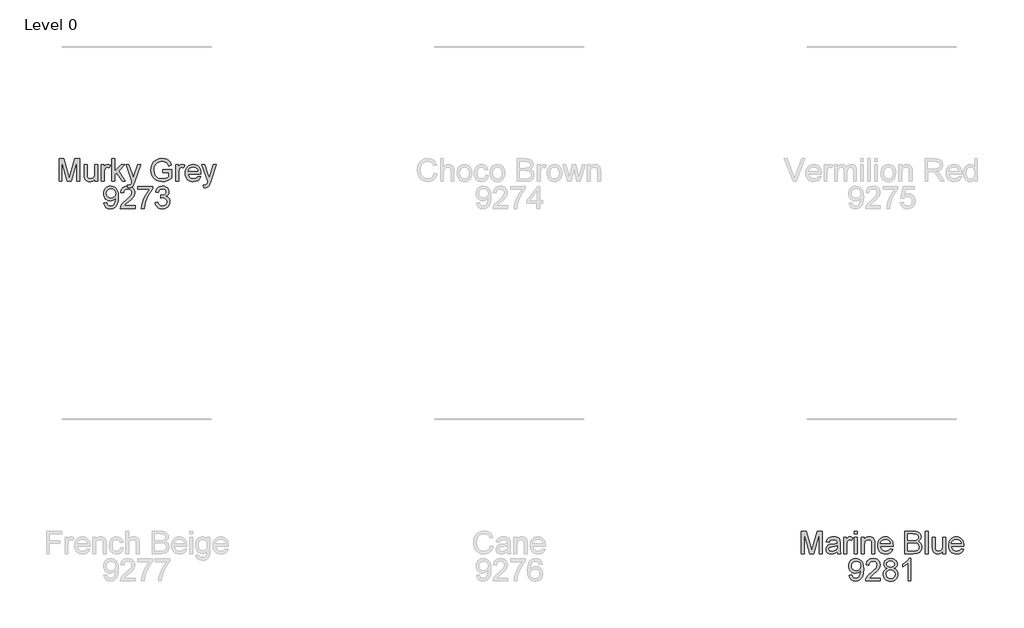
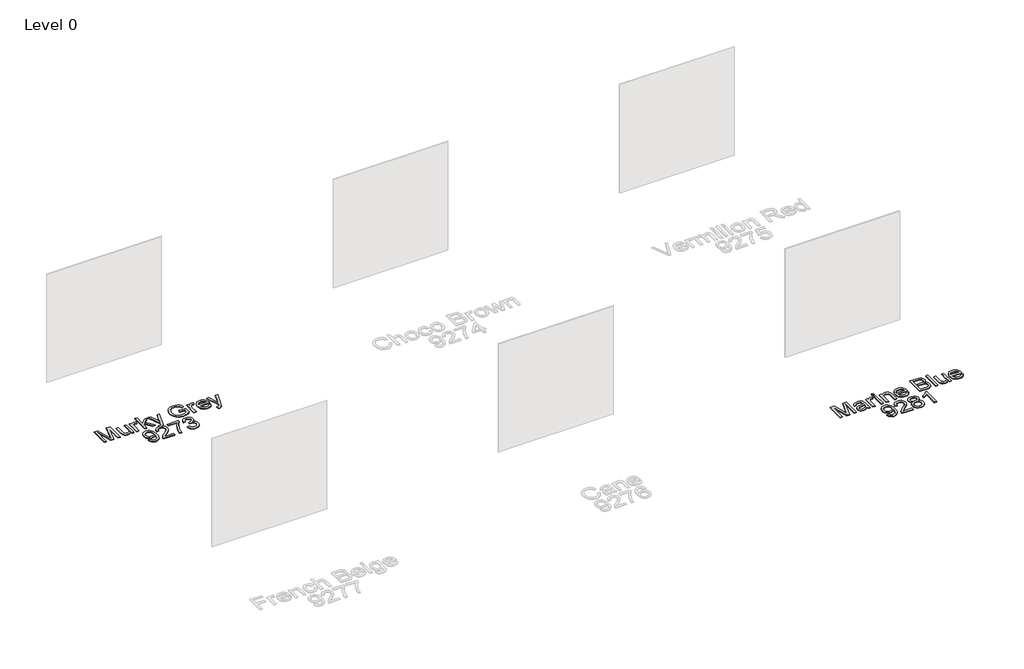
# One storey, part 4 of 6: 2 proxies.
"""IFC4 building model written with IfcOpenShell, lengths in millimetres."""

from ifc_helpers import new_model, si_unit, origin, origin_with_axes, place, context, project, spatial, polyline, outline, extrude, element, save

model = new_model("IFC4")

# Units and contexts
model_context = context("Model", 3, world=origin())
ifc_project = project(units=[si_unit("LENGTHUNIT", "METRE", prefix="MILLI")], contexts=[model_context])

# Site, building, storey
site = spatial("IfcSite", under=ifc_project)
building = spatial("IfcBuilding", under=site)
storey = spatial("IfcBuildingStorey", under=building, Name="Level 0", Elevation=0.0)

# Proxies
placement = place(None, origin())
element("IfcBuildingElementProxy", 1, Name="300mm Arial", ObjectType="300mm Arial", at=placement, inside=storey, context=model_context, shape_type="SweptSolid", body=[
    extrude(outline(polyline([(9471.0062394, -12002.860494), (9471.0062394, -11701.4915635), (9535.827047, -11701.4915635), (9597.4840694, -11913.9066275), (9609.9184808, -11958.2731962), (9623.3829618, -11910.2278076), (9684.0099146, -11701.4915635), (9748.8307222, -11701.4915635), (9748.8307222, -12002.860494), (9711.1596059, -12002.860494), (9711.1596059, -11739.1626798), (9635.4494913, -12002.860494), (9584.3874703, -12002.860494), (9508.6773557, -11739.1626798), (9508.6773557, -12002.860494), (9471.0062394, -12002.860494)])), origin_with_axes(), (0.0, 0.0, 1.0), 10.0),
    extrude(outline(polyline([(9951.3129723, -11974.6071568), (9933.3143457, -11990.0398064), (9914.7822902, -12000.1381672), (9895.2937415, -12005.7115794), (9874.4256353, -12007.5693835), (9842.9441336, -12003.0996173), (9819.7215827, -11989.6903186), (9805.401776, -11969.3280501), (9800.6285071, -11943.9993748), (9802.4311289, -11928.3827841), (9807.8389942, -11914.2009331), (9816.1807185, -11902.0608273), (9826.784917, -11892.5694718), (9853.162056, -11880.2086368), (9885.7564008, -11874.5432541), (9924.2736457, -11868.5835657), (9951.0922431, -11861.5938078), (9951.3129723, -11853.2060983), (9948.7194043, -11836.3938912), (9940.9387001, -11825.3942195), (9923.5378817, -11817.2272392), (9899.2944582, -11814.5049125), (9876.8536565, -11816.3167313), (9861.1818835, -11821.7521878), (9850.4949116, -11831.8045633), (9843.008513, -11847.4671392), (9805.3373966, -11842.7582497), (9811.8764991, -11822.156858), (9821.634569, -11805.9700502), (9835.5221144, -11793.590821), (9854.449643, -11784.4121652), (9877.5986175, -11778.7283884), (9904.1505006, -11776.8337961), (9929.6171317, -11778.5076592), (9949.8046562, -11783.5292485), (9965.0257737, -11791.0800264), (9975.593184, -11800.3414556), (9982.601336, -11811.7917827), (9987.1446787, -11825.9092543), (9988.9840886, -11858.8714811), (9988.9840886, -11905.7396473), (9990.897075, -11971.1858542), (9998.4018677, -12002.860494), (9960.7307514, -12002.860494), (9951.3129723, -11974.6071568)]), holes=[polyline([(9951.3129723, -11899.2649241), (9890.5388667, -11910.8164188), (9858.128463, -11916.9232599), (9843.4499713, -11926.8560738), (9838.2996234, -11941.3506244), (9841.1047236, -11952.5526311), (9849.5200243, -11961.7312869), (9863.3615843, -11967.8565221), (9882.4454628, -11969.8982672), (9902.6789726, -11967.64499), (9920.5580375, -11960.8851583), (9935.0525881, -11950.9247533), (9945.1325548, -11939.069756), (9949.6023211, -11926.8560738), (9951.0922431, -11909.933502), (9951.3129723, -11899.2649241)])]), origin_with_axes(), (0.0, 0.0, 1.0), 10.0),
    extrude(outline(polyline([(10040.7818736, -12002.860494), (10040.7818736, -11781.5426857), (10073.7441003, -11781.5426857), (10073.7441003, -11814.2841833), (10085.9209944, -11795.3014723), (10097.1413952, -11784.1178596), (10108.3985843, -11778.654812), (10120.6858429, -11776.8337961), (10139.4478247, -11779.7400639), (10158.504112, -11788.4588672), (10145.9225478, -11822.2304343), (10132.678796, -11816.4362929), (10119.4350441, -11814.5049125), (10108.1870521, -11816.3627165), (10098.1346766, -11821.9361288), (10090.0136816, -11830.8020848), (10084.559831, -11842.5375205), (10079.9797001, -11863.5803706), (10078.4529899, -11886.5362071), (10078.4529899, -12002.860494), (10040.7818736, -12002.860494)])), origin_with_axes(), (0.0, 0.0, 1.0), 10.0),
    extrude(outline(polyline([(10182.0485597, -11739.1626798), (10182.0485597, -11701.4915635), (10219.719676, -11701.4915635), (10219.719676, -11739.1626798), (10182.0485597, -11739.1626798)])), origin_with_axes(), (0.0, 0.0, 1.0), 10.0),
    extrude(outline(polyline([(10182.0485597, -12002.860494), (10182.0485597, -11781.5426857), (10219.719676, -11781.5426857), (10219.719676, -12002.860494), (10182.0485597, -12002.860494)])), origin_with_axes(), (0.0, 0.0, 1.0), 10.0),
    extrude(outline(polyline([(10276.2263505, -12002.860494), (10276.2263505, -11781.5426857), (10313.8974668, -11781.5426857), (10313.8974668, -11812.4447733), (10326.9848688, -11796.8649708), (10342.702627, -11785.7365404), (10361.0507415, -11779.0594822), (10382.0292123, -11776.8337961), (10400.598056, -11778.6272209), (10417.6034012, -11784.0074951), (10431.7852521, -11792.303234), (10441.8836129, -11802.8430532), (10453.1775902, -11830.5445674), (10455.1641529, -11866.964885), (10455.1641529, -12002.860494), (10417.4930366, -12002.860494), (10417.4930366, -11872.0416565), (10413.1520291, -11838.7115477), (10407.1463555, -11828.7879309), (10397.8113499, -11821.0900002), (10385.845988, -11816.1511844), (10371.9492456, -11814.5049125), (10349.885523, -11818.2021265), (10331.077556, -11829.2937687), (10323.5612669, -11838.3482643), (10318.1924891, -11850.7228949), (10313.8974668, -11885.4325611), (10313.8974668, -12002.860494), (10276.2263505, -12002.860494)])), origin_with_axes(), (0.0, 0.0, 1.0), 10.0),
    extrude(outline(polyline([(10661.9138342, -11936.9360404), (10698.8491865, -11941.64493), (10685.5410554, -11969.4752029), (10664.3050672, -11990.2789297), (10635.6194686, -12003.2467701), (10599.9625062, -12007.5693835), (10576.588204, -12005.7046817), (10555.7614845, -12000.1105761), (10537.4823479, -11990.7870668), (10521.7507941, -11977.7341537), (10509.1002519, -11961.3151204), (10500.0641504, -11941.8932503), (10494.6424895, -11919.4685435), (10492.8352692, -11894.0409998), (10494.6608836, -11867.7512327), (10500.1377268, -11844.5792656), (10509.2657988, -11824.5250983), (10522.0450997, -11807.5887309), (10537.7352667, -11794.133447), (10555.5959376, -11784.5225298), (10575.6271122, -11778.7559796), (10597.8287907, -11776.8337961), (10619.3153984, -11778.751381), (10638.7464656, -11784.5041357), (10656.1219921, -11794.0920602), (10671.4419779, -11807.5151545), (10683.9476665, -11824.4147337), (10692.8803012, -11844.4321128), (10698.239882, -11867.5672917), (10700.0264089, -11893.8202706), (10699.8056797, -11903.9738137), (10530.5063855, -11903.9738137), (10537.0270939, -11932.1719686), (10552.1746351, -11952.902119), (10574.0360226, -11965.6492302), (10600.6982702, -11969.8982672), (10620.747839, -11967.9300985), (10637.6336225, -11962.0255925), (10651.355621, -11951.8168672), (10661.9138342, -11936.9360404)]), holes=[polyline([(10530.5063855, -11866.3026974), (10662.3552926, -11866.3026974), (10657.260127, -11846.4002814), (10647.2721308, -11832.1632482), (10625.3095757, -11818.9194964), (10597.6816379, -11814.5049125), (10572.2885831, -11818.0273826), (10551.2917183, -11828.5947929), (10536.6960001, -11845.0667092), (10530.5063855, -11866.3026974)])]), origin_with_axes(), (0.0, 0.0, 1.0), 10.0),
    extrude(outline(polyline([(10860.1286532, -12002.860494), (10860.1286532, -11701.4915635), (10975.1285649, -11701.4915635), (11006.7572194, -11703.7080526), (11031.4512984, -11710.3575196), (11050.378827, -11721.6055116), (11064.7078307, -11737.6175755), (11073.7301367, -11756.4531336), (11076.737572, -11776.1716086), (11074.2083833, -11794.317388), (11066.6208171, -11811.3779155), (11053.9196912, -11826.3047274), (11036.0498233, -11838.0493601), (11057.3961761, -11849.1961846), (11073.1691166, -11866.1555446), (11082.9087924, -11887.8054), (11086.1553511, -11913.0237108), (11083.938862, -11934.0389697), (11077.289395, -11953.5275184), (11067.3657782, -11970.1006023), (11055.3268399, -11982.3694669), (11040.5839689, -11991.253817), (11022.5485541, -11997.6733578), (10974.2456481, -12002.860494), (10860.1286532, -12002.860494)]), holes=[polyline([(10897.7997695, -11823.9226915), (10966.5937026, -11823.9226915), (11006.7664165, -11820.68533), (11020.8287058, -11815.1027207), (11030.9362636, -11806.7426024), (11037.0339076, -11795.7337336), (11039.0664557, -11782.2048733), (11037.1718634, -11769.071486), (11031.4880866, -11757.630356), (11022.2726426, -11748.7000206), (11009.7830489, -11743.0990172), (10961.3697783, -11739.1626798), (10897.7997695, -11739.1626798), (10897.7997695, -11823.9226915)]), polyline([(10897.7997695, -11965.1893777), (10975.0549885, -11965.1893777), (11003.0140201, -11963.7178497), (11026.6688324, -11955.5140812), (11042.3406054, -11938.7754504), (11046.9483274, -11926.9480443), (11048.4842347, -11913.3915928), (11046.681613, -11897.6462434), (11041.2737476, -11884.1081859), (11031.8283774, -11873.5223815), (11017.9132409, -11866.6337912), (10998.2039631, -11862.8538037), (10971.3761686, -11861.5938078), (10897.7997695, -11861.5938078), (10897.7997695, -11965.1893777)])]), origin_with_axes(), (0.0, 0.0, 1.0), 10.0),
    extrude(outline(polyline([(11133.2442464, -12002.860494), (11133.2442464, -11701.4915635), (11170.9153627, -11701.4915635), (11170.9153627, -12002.860494), (11133.2442464, -12002.860494)])), origin_with_axes(), (0.0, 0.0, 1.0), 10.0),
    extrude(outline(polyline([(11368.6887234, -12002.860494), (11368.6887234, -11964.8214957), (11355.0586954, -11983.5236966), (11339.1845873, -11996.8824116), (11321.0663991, -12004.8976405), (11300.7041306, -12007.5693835), (11282.3560161, -12005.6931853), (11265.2770945, -12000.0645908), (11250.9480908, -11991.6033049), (11240.84973, -11981.2290327), (11229.6293292, -11953.4907302), (11227.4220372, -11918.4683643), (11227.4220372, -11781.5426857), (11265.0931535, -11781.5426857), (11265.0931535, -11900.7364521), (11267.3740219, -11939.1433324), (11272.8646607, -11951.9548229), (11282.2732427, -11961.6944987), (11294.9743686, -11967.8473251), (11310.3426389, -11969.8982672), (11326.5938261, -11967.8013398), (11341.7965495, -11961.5105577), (11354.3321285, -11951.605335), (11362.5818822, -11938.6650858), (11367.1620131, -11920.9423707), (11368.6887234, -11896.6897502), (11368.6887234, -11781.5426857), (11406.3598397, -11781.5426857), (11406.3598397, -12002.860494), (11368.6887234, -12002.860494)])), origin_with_axes(), (0.0, 0.0, 1.0), 10.0),
    extrude(outline(polyline([(11613.1095209, -11936.9360404), (11650.0448733, -11941.64493), (11636.7367421, -11969.4752029), (11615.5007539, -11990.2789297), (11586.8151553, -12003.2467701), (11551.158193, -12007.5693835), (11527.7838907, -12005.7046817), (11506.9571712, -12000.1105761), (11488.6780346, -11990.7870668), (11472.9464808, -11977.7341537), (11460.2959387, -11961.3151204), (11451.2598372, -11941.8932503), (11445.8381763, -11919.4685435), (11444.030956, -11894.0409998), (11445.8565704, -11867.7512327), (11451.3334136, -11844.5792656), (11460.4614856, -11824.5250983), (11473.2407864, -11807.5887309), (11488.9309535, -11794.133447), (11506.7916243, -11784.5225298), (11526.822799, -11778.7559796), (11549.0244774, -11776.8337961), (11570.5110852, -11778.751381), (11589.9421523, -11784.5041357), (11607.3176788, -11794.0920602), (11622.6376646, -11807.5151545), (11635.1433532, -11824.4147337), (11644.0759879, -11844.4321128), (11649.4355687, -11867.5672917), (11651.2220956, -11893.8202706), (11651.0013664, -11903.9738137), (11481.7020723, -11903.9738137), (11488.2227806, -11932.1719686), (11503.3703218, -11952.902119), (11525.2317093, -11965.6492302), (11551.8939569, -11969.8982672), (11571.9435257, -11967.9300985), (11588.8293093, -11962.0255925), (11602.5513077, -11951.8168672), (11613.1095209, -11936.9360404)]), holes=[polyline([(11481.7020723, -11866.3026974), (11613.5509793, -11866.3026974), (11608.4558137, -11846.4002814), (11598.4678175, -11832.1632482), (11576.5052624, -11818.9194964), (11548.8773246, -11814.5049125), (11523.4842699, -11818.0273826), (11502.487405, -11828.5947929), (11487.8916868, -11845.0667092), (11481.7020723, -11866.3026974)])]), origin_with_axes(), (0.0, 0.0, 1.0), 10.0),
    extrude(outline(polyline([(10111.4152166, -12293.4427149), (10149.0863329, -12288.7338254), (10155.5242679, -12310.1169663), (10166.0089047, -12324.6758963), (10180.2827261, -12333.0360146), (10198.0882147, -12335.8227207), (10214.0634903, -12334.029296), (10228.5856321, -12328.6490218), (10240.6521615, -12320.2705094), (10249.2606002, -12309.4823699), (10261.5846471, -12276.7408723), (10267.0293006, -12233.0364913), (10266.8085714, -12225.6788514), (10253.7579576, -12241.6081418), (10236.679036, -12254.2264942), (10216.8042112, -12262.4486568), (10195.3658879, -12265.1893777), (10177.4707281, -12263.5155146), (10161.0149066, -12258.4939254), (10145.9984234, -12250.12461), (10132.4212786, -12238.4075684), (10121.1709873, -12223.9544045), (10113.135065, -12207.3767221), (10108.3135116, -12188.6745212), (10106.7063271, -12167.8478018), (10108.3916865, -12146.326705), (10113.4477647, -12127.0129003), (10121.8745616, -12109.9063875), (10133.6720773, -12095.0071667), (10148.0079788, -12082.9360387), (10164.0499331, -12074.3138045), (10181.7979401, -12069.1404639), (10201.2519999, -12067.4160171), (10229.3489872, -12071.3523544), (10254.925983, -12083.1613665), (10276.318321, -12102.254442), (10291.8613353, -12128.0429699), (10301.3250996, -12163.6907352), (10304.4796877, -12212.3615232), (10301.3342966, -12263.96617), (10291.8981235, -12303.8537754), (10276.2539416, -12333.8269609), (10254.4845246, -12355.6883485), (10227.5279714, -12369.0424649), (10196.3223811, -12373.4938371), (10164.1143124, -12368.2423216), (10138.4177551, -12352.4877751), (10120.4467196, -12327.2234791), (10111.4152166, -12293.4427149)]), holes=[polyline([(10266.8085714, -12166.964885), (10262.7434754, -12141.4338745), (10250.5481872, -12121.788976), (10231.6206586, -12109.262594), (10207.358841, -12105.0871334), (10182.1957125, -12109.5844908), (10162.0357792, -12123.0765629), (10148.7920273, -12143.7239399), (10144.3774434, -12169.6872117), (10148.552904, -12192.964945), (10161.079286, -12211.4418182), (10180.7425786, -12223.4991506), (10206.3287714, -12227.5182614), (10230.3974509, -12223.4991506), (10249.775635, -12211.4418182), (10262.5503373, -12192.2843633), (10266.8085714, -12166.964885)])]), origin_with_axes(), (0.0, 0.0, 1.0), 10.0),
    extrude(outline(polyline([(10530.5063855, -12331.1138312), (10530.5063855, -12368.7849475), (10332.7330249, -12368.7849475), (10336.7797269, -12342.8124787), (10346.0687473, -12322.5145896), (10359.661987, -12302.8237058), (10379.3252796, -12282.213117), (10406.8244588, -12259.156113), (10447.4754192, -12223.0484951), (10471.8659955, -12196.3954446), (10484.0612836, -12174.7639833), (10488.1263797, -12153.7211331), (10484.2912099, -12134.8579838), (10472.7857005, -12119.1770138), (10455.0997736, -12108.6096035), (10432.7233512, -12105.0871334), (10409.2248888, -12108.52683), (10390.9687448, -12118.84592), (10379.1873239, -12135.2350629), (10375.1130308, -12156.8849183), (10337.4419145, -12152.1760288), (10346.574585, -12115.7373171), (10355.1209436, -12101.2013798), (10366.3206511, -12089.1210548), (10379.9161901, -12079.6251008), (10395.6500432, -12072.8422765), (10433.5326916, -12067.4160171), (10453.7225154, -12068.9243332), (10471.6912516, -12073.4492818), (10487.4389002, -12080.9908627), (10500.9654613, -12091.549076), (10511.8294765, -12104.3421723), (10519.5894873, -12118.5884026), (10524.2454938, -12134.2877667), (10525.797496, -12151.4402648), (10524.1236329, -12169.4572855), (10519.1020437, -12187.1616065), (10510.1901024, -12205.1694302), (10496.845183, -12224.0969588), (10475.5724066, -12246.6941104), (10442.8768943, -12275.7108027), (10399.5403953, -12311.9471793), (10382.5442471, -12331.1138312), (10530.5063855, -12331.1138312)])), origin_with_axes(), (0.0, 0.0, 1.0), 10.0),
    extrude(outline(polyline([(10623.0654955, -12202.7965913), (10602.8963651, -12192.8637774), (10588.7421054, -12179.3992964), (10580.381987, -12162.6790597), (10577.5952809, -12142.9789789), (10579.1127942, -12127.6153071), (10583.6653338, -12113.5300252), (10591.2529, -12100.7231332), (10601.8754926, -12089.1946312), (10615.0226754, -12079.6664875), (10630.1840121, -12072.8606706), (10666.5491474, -12067.4160171), (10703.1350118, -12072.9894293), (10718.4618954, -12079.9561946), (10731.8114133, -12089.709666), (10742.627144, -12101.4634957), (10750.3526659, -12114.4313361), (10754.987979, -12128.613187), (10756.5330834, -12144.0090485), (10753.7831655, -12163.0745329), (10745.5334117, -12179.509661), (10731.6918517, -12192.8913686), (10712.1665148, -12202.7965913), (10735.3522775, -12214.7435591), (10752.228864, -12232.3375155), (10762.5203628, -12254.732332), (10765.9508625, -12281.0818799), (10764.2494082, -12299.8714528), (10759.1450455, -12317.0975272), (10750.6377744, -12332.7601031), (10738.7275948, -12346.8591806), (10724.0399062, -12358.5118428), (10707.2001078, -12366.8351729), (10688.2081998, -12371.829171), (10667.0641821, -12373.4938371), (10645.9201645, -12371.8222732), (10626.9282565, -12366.8075818), (10610.0884581, -12358.4497627), (10595.4007695, -12346.748816), (10583.4905899, -12332.5508703), (10574.9833188, -12316.7020541), (10569.8789561, -12299.2023674), (10568.1775018, -12280.0518103), (10571.7459572, -12252.6813898), (10582.4513233, -12230.1670117), (10599.741777, -12213.2812282), (10623.0654955, -12202.7965913)]), holes=[polyline([(10615.2663972, -12144.0826249), (10618.6049263, -12160.52695), (10628.6205137, -12173.6603373), (10645.0188536, -12182.268776), (10667.5056405, -12185.1382555), (10689.4681957, -12182.2871701), (10705.6182152, -12173.7339137), (10715.5510291, -12161.0419848), (10718.8619671, -12145.774882), (10715.4406645, -12129.9283651), (10705.1767568, -12116.822569), (10688.8060081, -12108.0209923), (10667.0641821, -12105.0871334), (10645.1844005, -12107.9566129), (10628.8412429, -12116.5650516), (10618.6601086, -12129.1834041), (10615.2663972, -12144.0826249)]), polyline([(10605.8486182, -12278.7274351), (10612.1394003, -12307.0911369), (10620.8490065, -12319.2588339), (10634.396261, -12328.317928), (10650.619857, -12333.9465226), (10667.3584877, -12335.8227207), (10692.9998628, -12331.8771864), (10712.2400912, -12320.0405832), (10724.2698324, -12302.1155329), (10728.2797461, -12279.9046575), (10724.1410737, -12257.316703), (10711.7250564, -12238.9961796), (10692.0433696, -12226.8560738), (10666.107689, -12222.8093718), (10640.8249988, -12226.8008915), (10621.7779085, -12238.7754504), (10609.8309407, -12256.7464859), (10605.8486182, -12278.7274351)])]), origin_with_axes(), (0.0, 0.0, 1.0), 10.0),
    extrude(outline(polyline([(10940.1797754, -12368.7849475), (10902.5086591, -12368.7849475), (10902.5086591, -12133.9290818), (10866.8241055, -12159.3497277), (10827.1664265, -12178.3692268), (10827.1664265, -12142.7582497), (10856.7533359, -12126.6634124), (10882.3855139, -12107.5151545), (10902.5914325, -12087.1528861), (10915.8995637, -12067.4160171), (10940.1797754, -12067.4160171), (10940.1797754, -12368.7849475)])), origin_with_axes(), (0.0, 0.0, 1.0), 10.0),
])
element("IfcBuildingElementProxy", 2, Name="300mm Arial", ObjectType="300mm Arial", at=placement, inside=storey, context=model_context, shape_type="SweptSolid", body=[
    extrude(outline(polyline([(-491.3226443, -7002.860494), (-491.3226443, -6701.4915635), (-426.5018367, -6701.4915635), (-364.8448143, -6913.9066275), (-352.4104029, -6958.2731962), (-338.9459219, -6910.2278076), (-278.3189691, -6701.4915635), (-213.4981615, -6701.4915635), (-213.4981615, -7002.860494), (-251.1692778, -7002.860494), (-251.1692778, -6739.1626798), (-326.8793924, -7002.860494), (-377.9414133, -7002.860494), (-453.651528, -6739.1626798), (-453.651528, -7002.860494), (-491.3226443, -7002.860494)])), origin_with_axes(), (0.0, 0.0, 1.0), 10.0),
    extrude(outline(polyline([(-11.0159114, -7002.860494), (-11.0159114, -6964.8214957), (-24.6459393, -6983.5236966), (-40.5200474, -6996.8824116), (-58.6382356, -7004.8976405), (-79.0005041, -7007.5693835), (-97.3486186, -7005.6931853), (-114.4275402, -7000.0645908), (-128.7565439, -6991.6033049), (-138.8549047, -6981.2290327), (-150.0753055, -6953.4907302), (-152.2825975, -6918.4683643), (-152.2825975, -6781.5426857), (-114.6114812, -6781.5426857), (-114.6114812, -6900.7364521), (-112.3306128, -6939.1433324), (-106.8399741, -6951.9548229), (-97.431392, -6961.6944987), (-84.7302661, -6967.8473251), (-69.3619958, -6969.8982672), (-53.1108087, -6967.8013398), (-37.9080852, -6961.5105577), (-25.3725062, -6951.605335), (-17.1227525, -6938.6650858), (-12.5426216, -6920.9423707), (-11.0159114, -6896.6897502), (-11.0159114, -6781.5426857), (26.6552049, -6781.5426857), (26.6552049, -7002.860494), (-11.0159114, -7002.860494)])), origin_with_axes(), (0.0, 0.0, 1.0), 10.0),
    extrude(outline(polyline([(78.4529899, -7002.860494), (78.4529899, -6781.5426857), (111.4152166, -6781.5426857), (111.4152166, -6814.2841833), (123.5921107, -6795.3014723), (134.8125115, -6784.1178596), (146.0697006, -6778.654812), (158.3569592, -6776.8337961), (177.118941, -6779.7400639), (196.1752283, -6788.4588672), (183.5936641, -6822.2304343), (170.3499123, -6816.4362929), (157.1061604, -6814.5049125), (145.8581684, -6816.3627165), (135.8057929, -6821.9361288), (127.6847979, -6830.8020848), (122.2309473, -6842.5375205), (117.6508165, -6863.5803706), (116.1241062, -6886.5362071), (116.1241062, -7002.860494), (78.4529899, -7002.860494)])), origin_with_axes(), (0.0, 0.0, 1.0), 10.0),
    extrude(outline(polyline([(219.719676, -7002.860494), (219.719676, -6701.4915635), (257.3907923, -6701.4915635), (257.3907923, -6863.4332178), (341.8564984, -6781.5426857), (393.9485889, -6781.5426857), (308.4528133, -6864.4632874), (398.6574785, -7002.860494), (354.6587918, -7002.860494), (281.4502748, -6890.6564855), (257.3907923, -6913.9802039), (257.3907923, -7002.860494), (219.719676, -7002.860494)])), origin_with_axes(), (0.0, 0.0, 1.0), 10.0),
    extrude(outline(polyline([(431.6197052, -7087.6205057), (426.9108157, -7051.3473409), (446.0406794, -7054.6582789), (463.9197444, -7050.5012124), (474.8826279, -7038.9129295), (485.1833237, -7011.1746271), (488.1263797, -7002.0511536), (408.0752575, -6781.5426857), (447.806513, -6781.5426857), (490.2600953, -6904.4152721), (505.0489515, -6953.5643066), (519.8378077, -6910.1542312), (563.4686123, -6781.5426857), (602.9055622, -6781.5426857), (525.8710724, -7008.1579947), (505.8582919, -7057.3070293), (495.6127783, -7072.9971964), (484.0061013, -7083.8681093), (470.5232262, -7090.2140737), (454.6491181, -7092.3293952), (431.6197052, -7087.6205057)])), origin_with_axes(), (0.0, 0.0, 1.0), 10.0),
    extrude(outline(polyline([(897.7997695, -6885.1382555), (897.7997695, -6847.4671392), (1020.2308975, -6847.4671392), (1020.2308975, -6960.1126061), (990.4784412, -6980.8059684), (959.7878857, -6995.6500069), (928.2328076, -7004.5895394), (895.8867831, -7007.5693835), (853.626339, -7002.8329028), (815.4309908, -6988.6234608), (783.7011687, -6965.437698), (760.8373027, -6933.7722553), (747.0141368, -6895.7884393), (742.4064148, -6853.6475567), (746.9957427, -6811.2031715), (760.7637263, -6771.7202364), (783.1401487, -6738.6016598), (813.5547926, -6715.2503502), (850.6005095, -6701.399593), (892.8701508, -6696.782674), (923.9009971, -6699.4590155), (951.8048464, -6707.4880401), (975.3033089, -6720.2903335), (993.1179945, -6737.2864817), (1006.297367, -6759.295022), (1015.88989, -6787.134492), (981.1618296, -6796.9201531), (973.4087166, -6777.0637224), (963.9817405, -6762.0817281), (951.5105408, -6750.7877509), (934.6247572, -6741.9953712), (914.4924151, -6736.3391855), (892.2815396, -6734.4537903), (866.2814796, -6736.4863383), (844.05221, -6742.5839824), (825.6765044, -6751.9833674), (811.2371361, -6763.9211381), (791.8497549, -6792.9470275), (783.020587, -6821.3843058), (780.0775311, -6852.1024524), (783.6183953, -6888.1272967), (794.2409879, -6917.7693885), (811.6234122, -6940.8171955), (835.4437713, -6957.0591856), (863.3200295, -6966.6884968), (892.8701508, -6969.8982672), (918.9621813, -6967.4794431), (944.4104183, -6960.2229707), (966.5109292, -6950.2257775), (982.5597812, -6939.5847908), (982.5597812, -6885.1382555), (897.7997695, -6885.1382555)])), origin_with_axes(), (0.0, 0.0, 1.0), 10.0),
    extrude(outline(polyline([(1076.737572, -7002.860494), (1076.737572, -6781.5426857), (1109.6997987, -6781.5426857), (1109.6997987, -6814.2841833), (1121.8766928, -6795.3014723), (1133.0970936, -6784.1178596), (1144.3542827, -6778.654812), (1156.6415413, -6776.8337961), (1175.4035231, -6779.7400639), (1194.4598104, -6788.4588672), (1181.8782462, -6822.2304343), (1168.6344944, -6816.4362929), (1155.3907425, -6814.5049125), (1144.1427505, -6816.3627165), (1134.090375, -6821.9361288), (1125.96938, -6830.8020848), (1120.5155294, -6842.5375205), (1115.9353986, -6863.5803706), (1114.4086883, -6886.5362071), (1114.4086883, -7002.860494), (1076.737572, -7002.860494)])), origin_with_axes(), (0.0, 0.0, 1.0), 10.0),
    extrude(outline(polyline([(1372.9561545, -6936.9360404), (1409.8915068, -6941.64493), (1396.5833756, -6969.4752029), (1375.3473875, -6990.2789297), (1346.6617889, -7003.2467701), (1311.0048265, -7007.5693835), (1287.6305242, -7005.7046817), (1266.8038048, -7000.1105761), (1248.5246682, -6990.7870668), (1232.7931143, -6977.7341537), (1220.1425722, -6961.3151204), (1211.1064707, -6941.8932503), (1205.6848098, -6919.4685435), (1203.8775895, -6894.0409998), (1205.7032039, -6867.7512327), (1211.1800471, -6844.5792656), (1220.3081191, -6824.5250983), (1233.0874199, -6807.5887309), (1248.777587, -6794.133447), (1266.6382579, -6784.5225298), (1286.6694325, -6778.7559796), (1308.8711109, -6776.8337961), (1330.3577187, -6778.751381), (1349.7887858, -6784.5041357), (1367.1643123, -6794.0920602), (1382.4842982, -6807.5151545), (1394.9899867, -6824.4147337), (1403.9226214, -6844.4321128), (1409.2822023, -6867.5672917), (1411.0687292, -6893.8202706), (1410.848, -6903.9738137), (1241.5487058, -6903.9738137), (1248.0694142, -6932.1719686), (1263.2169553, -6952.902119), (1285.0783429, -6965.6492302), (1311.7405905, -6969.8982672), (1331.7901592, -6967.9300985), (1348.6759428, -6962.0255925), (1362.3979412, -6951.8168672), (1372.9561545, -6936.9360404)]), holes=[polyline([(1241.5487058, -6866.3026974), (1373.3976129, -6866.3026974), (1368.3024473, -6846.4002814), (1358.3144511, -6832.1632482), (1336.351896, -6818.9194964), (1308.7239581, -6814.5049125), (1283.3309034, -6818.0273826), (1262.3340385, -6828.5947929), (1247.7383204, -6845.0667092), (1241.5487058, -6866.3026974)])]), origin_with_axes(), (0.0, 0.0, 1.0), 10.0),
    extrude(outline(polyline([(1448.7398455, -7087.6205057), (1444.030956, -7051.3473409), (1463.1608197, -7054.6582789), (1481.0398847, -7050.5012124), (1492.0027681, -7038.9129295), (1502.303464, -7011.1746271), (1505.24652, -7002.0511536), (1425.1953978, -6781.5426857), (1464.9266533, -6781.5426857), (1507.3802355, -6904.4152721), (1522.1690917, -6953.5643066), (1536.9579479, -6910.1542312), (1580.5887526, -6781.5426857), (1620.0257025, -6781.5426857), (1542.9912127, -7008.1579947), (1522.9784321, -7057.3070293), (1512.7329186, -7072.9971964), (1501.1262416, -7083.8681093), (1487.6433665, -7090.2140737), (1471.7692584, -7092.3293952), (1448.7398455, -7087.6205057)])), origin_with_axes(), (0.0, 0.0, 1.0), 10.0),
    extrude(outline(polyline([(111.4152166, -7293.4427149), (149.0863329, -7288.7338254), (155.5242679, -7310.1169663), (166.0089047, -7324.6758963), (180.2827261, -7333.0360146), (198.0882147, -7335.8227207), (214.0634903, -7334.029296), (228.5856321, -7328.6490218), (240.6521615, -7320.2705094), (249.2606002, -7309.4823699), (261.5846471, -7276.7408723), (267.0293006, -7233.0364913), (266.8085714, -7225.6788514), (253.7579576, -7241.6081418), (236.679036, -7254.2264942), (216.8042112, -7262.4486568), (195.3658879, -7265.1893777), (177.4707281, -7263.5155146), (161.0149066, -7258.4939254), (145.9984234, -7250.12461), (132.4212786, -7238.4075684), (121.1709873, -7223.9544045), (113.135065, -7207.3767221), (108.3135116, -7188.6745212), (106.7063271, -7167.8478018), (108.3916865, -7146.326705), (113.4477647, -7127.0129003), (121.8745616, -7109.9063875), (133.6720773, -7095.0071667), (148.0079788, -7082.9360387), (164.0499331, -7074.3138045), (181.7979401, -7069.1404639), (201.2519999, -7067.4160171), (229.3489872, -7071.3523544), (254.925983, -7083.1613665), (276.318321, -7102.254442), (291.8613353, -7128.0429699), (301.3250996, -7163.6907352), (304.4796877, -7212.3615232), (301.3342966, -7263.96617), (291.8981235, -7303.8537754), (276.2539416, -7333.8269609), (254.4845246, -7355.6883485), (227.5279714, -7369.0424649), (196.3223811, -7373.4938371), (164.1143124, -7368.2423216), (138.4177551, -7352.4877751), (120.4467196, -7327.2234791), (111.4152166, -7293.4427149)]), holes=[polyline([(266.8085714, -7166.964885), (262.7434754, -7141.4338745), (250.5481872, -7121.788976), (231.6206586, -7109.262594), (207.358841, -7105.0871334), (182.1957125, -7109.5844908), (162.0357792, -7123.0765629), (148.7920273, -7143.7239399), (144.3774434, -7169.6872117), (148.552904, -7192.964945), (161.079286, -7211.4418182), (180.7425786, -7223.4991506), (206.3287714, -7227.5182614), (230.3974509, -7223.4991506), (249.775635, -7211.4418182), (262.5503373, -7192.2843633), (266.8085714, -7166.964885)])]), origin_with_axes(), (0.0, 0.0, 1.0), 10.0),
    extrude(outline(polyline([(530.5063855, -7331.1138312), (530.5063855, -7368.7849475), (332.7330249, -7368.7849475), (336.7797269, -7342.8124787), (346.0687473, -7322.5145896), (359.661987, -7302.8237058), (379.3252796, -7282.213117), (406.8244588, -7259.156113), (447.4754192, -7223.0484951), (471.8659955, -7196.3954446), (484.0612836, -7174.7639833), (488.1263797, -7153.7211331), (484.2912099, -7134.8579838), (472.7857005, -7119.1770138), (455.0997736, -7108.6096035), (432.7233512, -7105.0871334), (409.2248888, -7108.52683), (390.9687448, -7118.84592), (379.1873239, -7135.2350629), (375.1130308, -7156.8849183), (337.4419145, -7152.1760288), (346.574585, -7115.7373171), (355.1209436, -7101.2013798), (366.3206511, -7089.1210548), (379.9161901, -7079.6251008), (395.6500432, -7072.8422765), (433.5326916, -7067.4160171), (453.7225154, -7068.9243332), (471.6912516, -7073.4492818), (487.4389002, -7080.9908627), (500.9654613, -7091.549076), (511.8294765, -7104.3421723), (519.5894873, -7118.5884026), (524.2454938, -7134.2877667), (525.797496, -7151.4402648), (524.1236329, -7169.4572855), (519.1020437, -7187.1616065), (510.1901024, -7205.1694302), (496.845183, -7224.0969588), (475.5724066, -7246.6941104), (442.8768943, -7275.7108027), (399.5403953, -7311.9471793), (382.5442471, -7331.1138312), (530.5063855, -7331.1138312)])), origin_with_axes(), (0.0, 0.0, 1.0), 10.0),
    extrude(outline(polyline([(568.1775018, -7109.7960229), (568.1775018, -7072.1249066), (765.9508625, -7072.1249066), (765.9508625, -7102.5855358), (737.7619046, -7138.2608923), (709.8488582, -7183.6299393), (685.2283557, -7234.5540045), (666.9170294, -7286.8944154), (657.9407087, -7326.0554538), (652.9375135, -7368.7849475), (615.2663972, -7368.7849475), (619.3406903, -7329.9550029), (630.2391944, -7283.8042066), (647.667604, -7234.8850983), (671.3316133, -7187.7502177), (698.9595511, -7145.1402856), (728.2797461, -7109.7960229), (568.1775018, -7109.7960229)])), origin_with_axes(), (0.0, 0.0, 1.0), 10.0),
    extrude(outline(polyline([(798.9130892, -7288.7338254), (836.5842055, -7284.0249358), (845.0179003, -7307.6981422), (857.3695383, -7323.6826149), (874.2461248, -7332.7876943), (896.2546651, -7335.8227207), (922.0799812, -7331.6472601), (942.0191853, -7319.1208782), (954.7662965, -7300.4324728), (959.0153335, -7277.7709419), (954.8030847, -7256.2590422), (942.1663381, -7238.8122386), (923.0364744, -7227.2515469), (899.3448739, -7223.397983), (872.9309467, -7227.5182614), (877.1248014, -7189.8471451), (883.1580661, -7190.2886035), (905.7276265, -7187.5846708), (925.905954, -7179.4728728), (940.1429872, -7165.7508744), (944.8886649, -7146.2163404), (941.4489683, -7129.9467592), (931.1298783, -7116.7489926), (915.3845289, -7108.0025982), (895.666054, -7105.0871334), (875.9107908, -7108.0301893), (859.7607712, -7116.8593572), (847.9701533, -7131.574637), (841.2930951, -7152.1760288), (803.6219788, -7147.4671392), (814.7136209, -7113.6403898), (834.45049, -7088.3852908), (861.4530284, -7072.6583355), (894.3416788, -7067.4160171), (918.0240822, -7070.0003881), (939.7751052, -7077.7535011), (958.1140226, -7089.9855775), (971.5601096, -7106.0068384), (979.8098633, -7124.4653175), (982.5597812, -7144.0090485), (979.947819, -7162.2192072), (972.1119325, -7178.7371088), (959.1624863, -7192.8085951), (941.209845, -7203.6795081), (964.7910808, -7213.2076518), (982.2654756, -7229.4312477), (993.0812063, -7251.4673793), (996.6864498, -7278.4331295), (994.8838281, -7297.5445992), (989.4759627, -7315.1477526), (980.4628538, -7331.2425899), (967.8445014, -7345.829111), (952.4716325, -7357.9324287), (935.1949743, -7366.5776555), (916.0145268, -7371.7647917), (894.93029, -7373.4938371), (875.8740026, -7372.0177105), (858.5099724, -7367.589331), (842.8381994, -7360.2086985), (828.8586836, -7349.875813), (817.1370436, -7337.1976797), (808.2388978, -7322.781304), (802.1642464, -7306.6266859), (798.9130892, -7288.7338254)])), origin_with_axes(), (0.0, 0.0, 1.0), 10.0),
])

save(model, "model.ifc")
